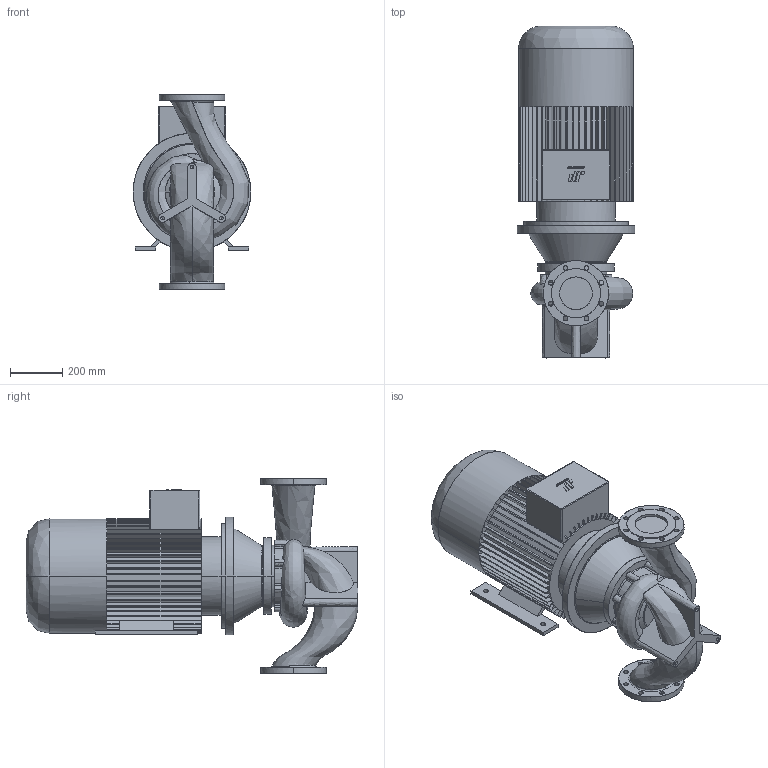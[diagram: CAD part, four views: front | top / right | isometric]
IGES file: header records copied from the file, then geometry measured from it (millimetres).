
Start section: CombiLine
Global section: file name: CLB_125-200_IEC225S_ND10.igs; native system:  By UGS Corp.; preprocessor: XPlus GENERIC/IGES 3.0; author: Stageplaats; organization: Johnson Pump Water B.V.; date: 20070717.133856; units: millimetre
Bounding box: 450 x 1270 x 750 mm (x, y, z)
Surface area: 3538071 mm2 (no closed solid volume)
Topology: 0 solids, 0 shells, 605 faces, 3661 edges, 3655 vertices
Faces by surface type: bspline 605
